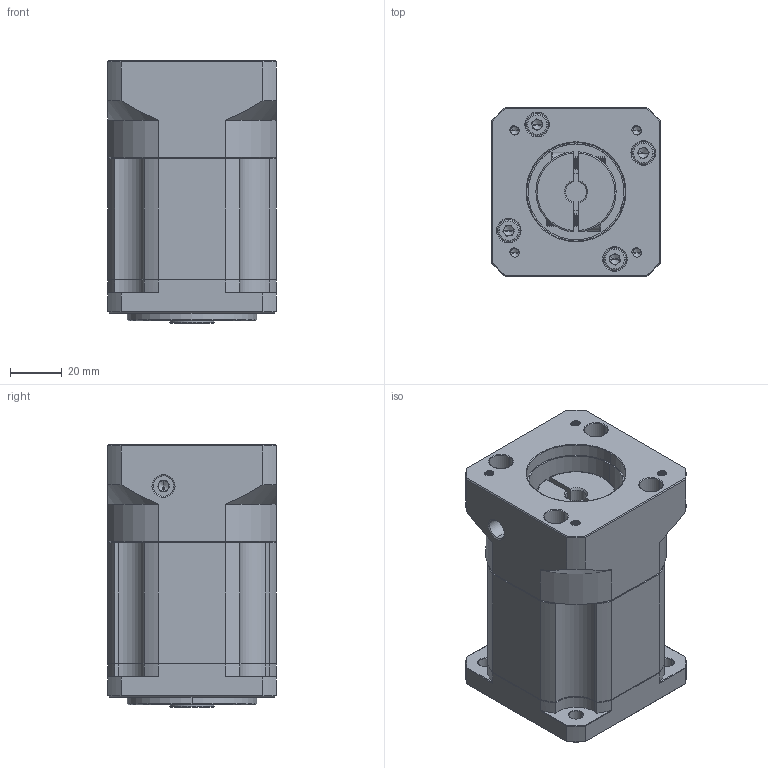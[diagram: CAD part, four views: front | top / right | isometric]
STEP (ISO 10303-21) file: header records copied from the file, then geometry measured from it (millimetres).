
FILE_DESCRIPTION (( 'STEP AP214' ), '1' );
FILE_NAME ('ZB60-K10-L2-8-38.1-47.14X47.14-M4.STEP', '2022-04-16T15:43:22', ( '' ), ( 'Microsoft' ), 'SwSTEP 2.0', 'SolidWorks 2016', '' );
FILE_SCHEMA (( 'AUTOMOTIVE_DESIGN' ));
Length unit declared in the file: millimetre
Products named in the file (1): ZB60-K10-L2-8-38.1-47.14X47.14-M4
Bounding box: 65 x 65 x 101.5 mm (x, y, z)
Volume: 327597.7 mm3; surface area: 57309.9 mm2
Topology: 6 solids, 6 shells, 1823 faces, 4835 edges, 3098 vertices
Faces by surface type: plane 876, cylinder 342, bspline 292, cone 279, torus 34
Entity records: 93041 total; most frequent: CARTESIAN_POINT 29831, ORIENTED_EDGE 9614, DIRECTION 7965, EDGE_CURVE 4807, VERTEX_POINT 3098, LINE 2961, VECTOR 2961, AXIS2_PLACEMENT_3D 2502
